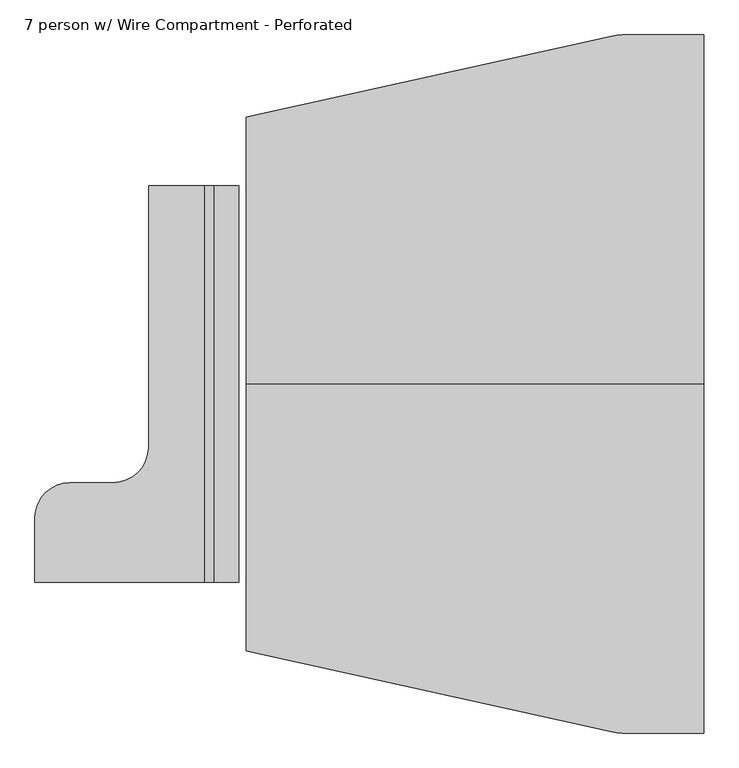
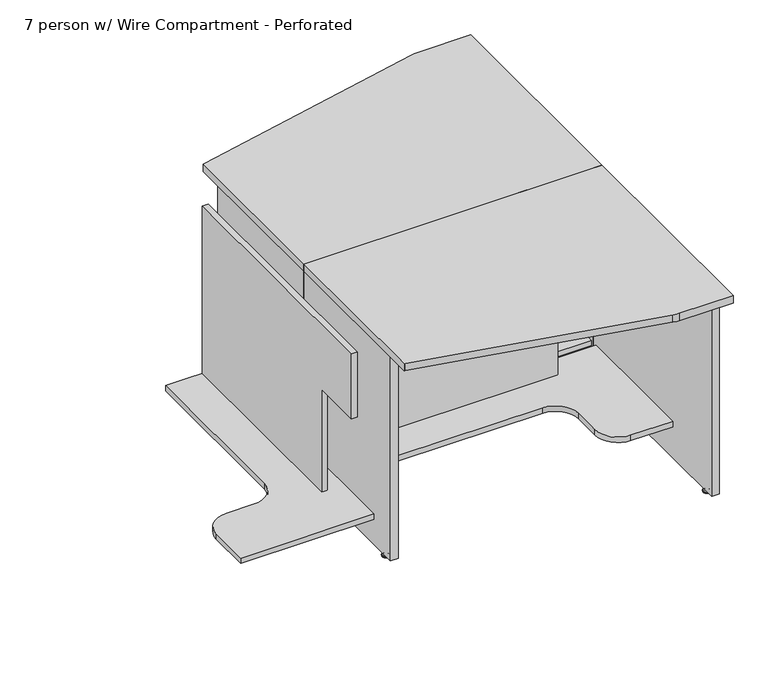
"""IFC4 building model written with IfcOpenShell, lengths in millimetres: furniture geometry, Nova Solutions - Collaboration Table - Boat_6-8 person : 7 person w/ Wire Compartment - Perforated."""

from ifc_helpers import new_model, si_unit, point, frame, frame_2d, origin, place, context, project, spatial, polyline, circle_curve, ellipse_curve, trimmed, segment, composite_curve, outline, extrude, source, transform, mapped, element, save
from ifc_brep_helpers import plane_surface, cylinder_surface, revolved_surface, advanced_brep


def furniture_7_person_w_wire_compartment_perforated_d2921011(model_context):
    return source(origin(), model_context, "Body", "SolidModel", [
        extrude(outline(polyline([(145.5, -1880.6768948), (145.5, -1112.3768948), (507.4, -1112.3768948), (507.4, -941.3768948), (736.3, -941.3768948), (736.3, -1880.6768948), (145.5, -1880.6768948)])), frame((0.0, 69.4, 0.0), z_axis=(0.0, 1.0, 0.0), x_axis=(0.0, 0.0, 1.0)), (0.0, 0.0, 1.0), 19.2),
        extrude(outline(composite_curve([segment(polyline([(-1880.6768948, 14.1), (-1880.6768948, 210.4), (-1233.5768948, 210.4)]), True, "CONTINUOUS"), segment(trimmed(circle_curve(frame_2d((-1233.5768948, 286.6)), 76.2), [point((-1233.5768948, 210.4))], [point((-1157.3768948, 286.6))], True, "CARTESIAN"), True, "CONTINUOUS"), segment(polyline([(-1157.3768948, 286.6), (-1157.3768948, 381.0625)]), True, "CONTINUOUS"), segment(trimmed(circle_curve(frame_2d((-1081.1768948, 381.0625)), 76.2), [point((-1157.3768948, 381.0625))], [point((-1081.1768948, 457.2625))], False, "CARTESIAN"), True, "CONTINUOUS"), segment(polyline([(-1081.1768948, 457.2625), (-941.3768948, 457.2625), (-941.3768948, 14.1), (-1880.6768948, 14.1)]), True, "CONTINUOUS")], self_intersect=False)), frame((0.0, 0.0, 126.3), z_axis=(0.0, 0.0, 1.0), x_axis=(1.0, 0.0, 0.0)), (0.0, 0.0, 1.0), 19.2),
        advanced_brep(
        [(-1900.2045454, 448.9859375, 11.1125), (-1886.8492442, 448.9859375, 11.1125), (-1893.5268948, 448.9859375, 11.1125), (-1900.2045454, 448.9859375, 9.525), (-1886.8492442, 448.9859375, 9.525), (-1905.4124083, 448.9859375, 4.7748687), (-1881.6413813, 448.9859375, 4.7748687), (-1906.2735454, 448.9859375, 3.989419), (-1880.7802442, 448.9859375, 3.989419), (-1906.2735454, 448.9859375, 3.175), (-1880.7802442, 448.9859375, 3.175), (-1905.4228067, 448.9859375, 0.0), (-1881.6309828, 448.9859375, 0.0), (-1893.5268948, 448.9859375, 0.0)],
        [
            (0, 1, circle_curve(frame((-1893.5268948, 448.9859375, 11.1125), z_axis=(0.0, 0.0, 1.0), x_axis=(1.0, 0.0, 0.0)), 6.6776506)),
            (1, 2),
            (2, 0),
            (1, 0, circle_curve(frame((-1893.5268948, 448.9859375, 11.1125), z_axis=(0.0, 0.0, 1.0), x_axis=(1.0, 0.0, 0.0)), 6.6776506)),
            (3, 4, circle_curve(frame((-1893.5268948, 448.9859375, 9.525), z_axis=(0.0, 0.0, 1.0), x_axis=(1.0, 0.0, 0.0)), 6.6776506)),
            (4, 1),
            (0, 3),
            (4, 3, circle_curve(frame((-1893.5268948, 448.9859375, 9.525), z_axis=(0.0, 0.0, 1.0), x_axis=(1.0, 0.0, 0.0)), 6.6776506)),
            (5, 6, circle_curve(frame((-1893.5268948, 448.9859375, 4.7748687), z_axis=(0.0, 0.0, 1.0), x_axis=(1.0, 0.0, 0.0)), 11.8855135)),
            (6, 4, circle_curve(frame((-1880.5948321, 448.9859375, 11.1521822), z_axis=(0.0, 1.0, 0.0), x_axis=(-1.0, 0.0, 0.0)), 6.462615)),
            (3, 5, circle_curve(frame((-1906.4589575, 448.9859375, 11.1521822), z_axis=(0.0, 1.0, 0.0), x_axis=(1.0, 0.0, 0.0)), 6.462615)),
            (6, 5, circle_curve(frame((-1893.5268948, 448.9859375, 4.7748687), z_axis=(0.0, 0.0, 1.0), x_axis=(1.0, 0.0, 0.0)), 11.8855135)),
            (7, 8, circle_curve(frame((-1893.5268948, 448.9859375, 3.989419), z_axis=(0.0, 0.0, 1.0), x_axis=(1.0, 0.0, 0.0)), 12.7466506)),
            (8, 6, circle_curve(frame((-1881.8144316, 448.9859375, 3.7203591), z_axis=(0.0, -1.0, 0.0), x_axis=(-1.0, 0.0, 0.0)), 1.0686145)),
            (5, 7, circle_curve(frame((-1905.239358, 448.9859375, 3.7203591), z_axis=(0.0, -1.0, 0.0), x_axis=(1.0, 0.0, 0.0)), 1.0686145)),
            (8, 7, circle_curve(frame((-1893.5268948, 448.9859375, 3.989419), z_axis=(0.0, 0.0, 1.0), x_axis=(1.0, 0.0, 0.0)), 12.7466506)),
            (9, 10, circle_curve(frame((-1893.5268948, 448.9859375, 3.175), z_axis=(0.0, 0.0, 1.0), x_axis=(1.0, 0.0, 0.0)), 12.7466506)),
            (10, 8),
            (7, 9),
            (10, 9, circle_curve(frame((-1893.5268948, 448.9859375, 3.175), z_axis=(0.0, 0.0, 1.0), x_axis=(1.0, 0.0, 0.0)), 12.7466506)),
            (11, 12, circle_curve(frame((-1893.5268948, 448.9859375, 0.0), z_axis=(0.0, 0.0, 1.0), x_axis=(1.0, 0.0, 0.0)), 11.8959119)),
            (12, 10),
            (9, 11),
            (12, 11, circle_curve(frame((-1893.5268948, 448.9859375, 0.0), z_axis=(0.0, 0.0, 1.0), x_axis=(1.0, 0.0, 0.0)), 11.8959119)),
            (13, 12),
            (11, 13),
        ],
        [
            plane_surface(frame((-1893.5268948, 448.9859375, 11.1125), z_axis=(0.0, 0.0, 1.0), x_axis=(1.0, 0.0, 0.0))),
            cylinder_surface(frame((-1893.5268948, 448.9859375, 43.2095994), z_axis=(0.0, 0.0, -1.0), x_axis=(1.0, 0.0, 0.0)), 6.6776506),
            revolved_surface(trimmed(ellipse_curve(frame((-1880.5948321, 448.9859375, 11.1521822), z_axis=(0.0, -1.0, 0.0), x_axis=(-1.0, 0.0, 0.0)), 6.462615, 6.462615), [point((-1886.8492442, 448.9859375, 9.525))], [point((-1881.6413813, 448.9859375, 4.7748687))], True, "CARTESIAN"), (-1893.5268948, 448.9859375, 43.2095994), (0.0, 0.0, -1.0)),
            revolved_surface(trimmed(ellipse_curve(frame((-1881.8144316, 448.9859375, 3.7203591), z_axis=(0.0, 1.0, 0.0), x_axis=(-1.0, 0.0, 0.0)), 1.0686145, 1.0686145), [point((-1881.6413813, 448.9859375, 4.7748687))], [point((-1880.7802442, 448.9859375, 3.989419))], True, "CARTESIAN"), (-1893.5268948, 448.9859375, 43.2095994), (0.0, 0.0, -1.0)),
            cylinder_surface(frame((-1893.5268948, 448.9859375, 43.2095994), z_axis=(0.0, 0.0, -1.0), x_axis=(1.0, 0.0, 0.0)), 12.7466506),
            revolved_surface(polyline([(-1880.7802442, 448.9859375, 3.175), (-1881.6309828, 448.9859375, 0.0)]), (-1893.5268948, 448.9859375, 43.2095994), (0.0, 0.0, -1.0)),
            plane_surface(frame((-1893.5268948, 448.9859375, 0.0), z_axis=(0.0, 0.0, -1.0), x_axis=(1.0, 0.0, 0.0))),
        ],
        [
            (0, [[1, 2, 3]]),
            (0, [[4, -3, -2]]),
            (1, [[5, 6, -1, 7]]),
            (1, [[8, -7, -4, -6]]),
            (2, [[9, 10, -5, 11]]),
            (2, [[12, -11, -8, -10]]),
            (3, [[13, 14, -9, 15]]),
            (3, [[16, -15, -12, -14]]),
            (4, [[17, 18, -13, 19]]),
            (4, [[20, -19, -16, -18]]),
            (5, [[21, 22, -17, 23]]),
            (5, [[24, -23, -20, -22]]),
            (6, [[25, -21, 26]]),
            (6, [[-26, -24, -25]]),
        ],
    ),
        advanced_brep(
        [(-1900.2045454, 50.4140625, 11.1125), (-1886.8492442, 50.4140625, 11.1125), (-1893.5268948, 50.4140625, 11.1125), (-1900.2045454, 50.4140625, 9.525), (-1886.8492442, 50.4140625, 9.525), (-1905.4124083, 50.4140625, 4.7748687), (-1881.6413813, 50.4140625, 4.7748687), (-1906.2735454, 50.4140625, 3.989419), (-1880.7802442, 50.4140625, 3.989419), (-1906.2735454, 50.4140625, 3.175), (-1880.7802442, 50.4140625, 3.175), (-1905.4228067, 50.4140625, 0.0), (-1881.6309828, 50.4140625, 0.0), (-1893.5268948, 50.4140625, 0.0)],
        [
            (0, 1, circle_curve(frame((-1893.5268948, 50.4140625, 11.1125), z_axis=(0.0, 0.0, 1.0), x_axis=(1.0, 0.0, 0.0)), 6.6776506)),
            (1, 2),
            (2, 0),
            (1, 0, circle_curve(frame((-1893.5268948, 50.4140625, 11.1125), z_axis=(0.0, 0.0, 1.0), x_axis=(1.0, 0.0, 0.0)), 6.6776506)),
            (3, 4, circle_curve(frame((-1893.5268948, 50.4140625, 9.525), z_axis=(0.0, 0.0, 1.0), x_axis=(1.0, 0.0, 0.0)), 6.6776506)),
            (4, 1),
            (0, 3),
            (4, 3, circle_curve(frame((-1893.5268948, 50.4140625, 9.525), z_axis=(0.0, 0.0, 1.0), x_axis=(1.0, 0.0, 0.0)), 6.6776506)),
            (5, 6, circle_curve(frame((-1893.5268948, 50.4140625, 4.7748687), z_axis=(0.0, 0.0, 1.0), x_axis=(1.0, 0.0, 0.0)), 11.8855135)),
            (6, 4, circle_curve(frame((-1880.5948321, 50.4140625, 11.1521822), z_axis=(0.0, 1.0, 0.0), x_axis=(-1.0, 0.0, 0.0)), 6.462615)),
            (3, 5, circle_curve(frame((-1906.4589575, 50.4140625, 11.1521822), z_axis=(0.0, 1.0, 0.0), x_axis=(1.0, 0.0, 0.0)), 6.462615)),
            (6, 5, circle_curve(frame((-1893.5268948, 50.4140625, 4.7748687), z_axis=(0.0, 0.0, 1.0), x_axis=(1.0, 0.0, 0.0)), 11.8855135)),
            (7, 8, circle_curve(frame((-1893.5268948, 50.4140625, 3.989419), z_axis=(0.0, 0.0, 1.0), x_axis=(1.0, 0.0, 0.0)), 12.7466506)),
            (8, 6, circle_curve(frame((-1881.8144316, 50.4140625, 3.7203591), z_axis=(0.0, -1.0, 0.0), x_axis=(-1.0, 0.0, 0.0)), 1.0686145)),
            (5, 7, circle_curve(frame((-1905.239358, 50.4140625, 3.7203591), z_axis=(0.0, -1.0, 0.0), x_axis=(1.0, 0.0, 0.0)), 1.0686145)),
            (8, 7, circle_curve(frame((-1893.5268948, 50.4140625, 3.989419), z_axis=(0.0, 0.0, 1.0), x_axis=(1.0, 0.0, 0.0)), 12.7466506)),
            (9, 10, circle_curve(frame((-1893.5268948, 50.4140625, 3.175), z_axis=(0.0, 0.0, 1.0), x_axis=(1.0, 0.0, 0.0)), 12.7466506)),
            (10, 8),
            (7, 9),
            (10, 9, circle_curve(frame((-1893.5268948, 50.4140625, 3.175), z_axis=(0.0, 0.0, 1.0), x_axis=(1.0, 0.0, 0.0)), 12.7466506)),
            (11, 12, circle_curve(frame((-1893.5268948, 50.4140625, 0.0), z_axis=(0.0, 0.0, 1.0), x_axis=(1.0, 0.0, 0.0)), 11.8959119)),
            (12, 10),
            (9, 11),
            (12, 11, circle_curve(frame((-1893.5268948, 50.4140625, 0.0), z_axis=(0.0, 0.0, 1.0), x_axis=(1.0, 0.0, 0.0)), 11.8959119)),
            (13, 12),
            (11, 13),
        ],
        [
            plane_surface(frame((-1893.5268948, 50.4140625, 11.1125), z_axis=(0.0, 0.0, 1.0), x_axis=(1.0, 0.0, 0.0))),
            cylinder_surface(frame((-1893.5268948, 50.4140625, 43.2095994), z_axis=(0.0, 0.0, -1.0), x_axis=(1.0, 0.0, 0.0)), 6.6776506),
            revolved_surface(trimmed(ellipse_curve(frame((-1880.5948321, 50.4140625, 11.1521822), z_axis=(0.0, -1.0, 0.0), x_axis=(-1.0, 0.0, 0.0)), 6.462615, 6.462615), [point((-1886.8492442, 50.4140625, 9.525))], [point((-1881.6413813, 50.4140625, 4.7748687))], True, "CARTESIAN"), (-1893.5268948, 50.4140625, 43.2095994), (0.0, 0.0, -1.0)),
            revolved_surface(trimmed(ellipse_curve(frame((-1881.8144316, 50.4140625, 3.7203591), z_axis=(0.0, 1.0, 0.0), x_axis=(-1.0, 0.0, 0.0)), 1.0686145, 1.0686145), [point((-1881.6413813, 50.4140625, 4.7748687))], [point((-1880.7802442, 50.4140625, 3.989419))], True, "CARTESIAN"), (-1893.5268948, 50.4140625, 43.2095994), (0.0, 0.0, -1.0)),
            cylinder_surface(frame((-1893.5268948, 50.4140625, 43.2095994), z_axis=(0.0, 0.0, -1.0), x_axis=(1.0, 0.0, 0.0)), 12.7466506),
            revolved_surface(polyline([(-1880.7802442, 50.4140625, 3.175), (-1881.6309828, 50.4140625, 0.0)]), (-1893.5268948, 50.4140625, 43.2095994), (0.0, 0.0, -1.0)),
            plane_surface(frame((-1893.5268948, 50.4140625, 0.0), z_axis=(0.0, 0.0, -1.0), x_axis=(1.0, 0.0, 0.0))),
        ],
        [
            (0, [[1, 2, 3]]),
            (0, [[4, -3, -2]]),
            (1, [[5, 6, -1, 7]]),
            (1, [[8, -7, -4, -6]]),
            (2, [[9, 10, -5, 11]]),
            (2, [[12, -11, -8, -10]]),
            (3, [[13, 14, -9, 15]]),
            (3, [[16, -15, -12, -14]]),
            (4, [[17, 18, -13, 19]]),
            (4, [[20, -19, -16, -18]]),
            (5, [[21, 22, -17, 23]]),
            (5, [[24, -23, -20, -22]]),
            (6, [[25, -21, 26]]),
            (6, [[-26, -24, -25]]),
        ],
    ),
        extrude(outline(polyline([(-1906.3768948, 1.4), (-1906.3768948, 498.0), (-1880.6768948, 498.0), (-1880.6768948, 1.4), (-1906.3768948, 1.4)])), frame((0.0, 0.0, 15.6), z_axis=(0.0, 0.0, 1.0), x_axis=(1.0, 0.0, 0.0)), (0.0, 0.0, 1.0), 720.7),
        advanced_brep(
        [(-921.8492442, 631.3859375, 11.1125), (-928.5268948, 631.3859375, 11.1125), (-935.2045454, 631.3859375, 11.1125), (-921.8492442, 631.3859375, 9.525), (-935.2045454, 631.3859375, 9.525), (-916.6413813, 631.3859375, 4.7748687), (-940.4124083, 631.3859375, 4.7748687), (-915.7802442, 631.3859375, 3.989419), (-941.2735454, 631.3859375, 3.989419), (-915.7802442, 631.3859375, 3.175), (-941.2735454, 631.3859375, 3.175), (-916.6309828, 631.3859375, 0.0), (-940.4228067, 631.3859375, 0.0), (-928.5268948, 631.3859375, 0.0)],
        [
            (0, 1),
            (1, 2),
            (2, 0, circle_curve(frame((-928.5268948, 631.3859375, 11.1125), z_axis=(0.0, 0.0, 1.0), x_axis=(-1.0, 0.0, 0.0)), 6.6776506)),
            (0, 2, circle_curve(frame((-928.5268948, 631.3859375, 11.1125), z_axis=(0.0, 0.0, 1.0), x_axis=(-1.0, 0.0, 0.0)), 6.6776506)),
            (3, 0),
            (2, 4),
            (4, 3, circle_curve(frame((-928.5268948, 631.3859375, 9.525), z_axis=(0.0, 0.0, 1.0), x_axis=(-1.0, 0.0, 0.0)), 6.6776506)),
            (3, 4, circle_curve(frame((-928.5268948, 631.3859375, 9.525), z_axis=(0.0, 0.0, 1.0), x_axis=(-1.0, 0.0, 0.0)), 6.6776506)),
            (5, 3, circle_curve(frame((-915.5948321, 631.3859375, 11.1521822), z_axis=(0.0, 1.0, 0.0), x_axis=(-1.0, 0.0, 0.0)), 6.462615)),
            (4, 6, circle_curve(frame((-941.4589575, 631.3859375, 11.1521822), z_axis=(0.0, 1.0, 0.0), x_axis=(1.0, 0.0, 0.0)), 6.462615)),
            (6, 5, circle_curve(frame((-928.5268948, 631.3859375, 4.7748687), z_axis=(0.0, 0.0, 1.0), x_axis=(-1.0, 0.0, 0.0)), 11.8855135)),
            (5, 6, circle_curve(frame((-928.5268948, 631.3859375, 4.7748687), z_axis=(0.0, 0.0, 1.0), x_axis=(-1.0, 0.0, 0.0)), 11.8855135)),
            (7, 5, circle_curve(frame((-916.8144316, 631.3859375, 3.7203591), z_axis=(0.0, -1.0, 0.0), x_axis=(-1.0, 0.0, 0.0)), 1.0686145)),
            (6, 8, circle_curve(frame((-940.239358, 631.3859375, 3.7203591), z_axis=(0.0, -1.0, 0.0), x_axis=(1.0, 0.0, 0.0)), 1.0686145)),
            (8, 7, circle_curve(frame((-928.5268948, 631.3859375, 3.989419), z_axis=(0.0, 0.0, 1.0), x_axis=(-1.0, 0.0, 0.0)), 12.7466506)),
            (7, 8, circle_curve(frame((-928.5268948, 631.3859375, 3.989419), z_axis=(0.0, 0.0, 1.0), x_axis=(-1.0, 0.0, 0.0)), 12.7466506)),
            (9, 7),
            (8, 10),
            (10, 9, circle_curve(frame((-928.5268948, 631.3859375, 3.175), z_axis=(0.0, 0.0, 1.0), x_axis=(-1.0, 0.0, 0.0)), 12.7466506)),
            (9, 10, circle_curve(frame((-928.5268948, 631.3859375, 3.175), z_axis=(0.0, 0.0, 1.0), x_axis=(-1.0, 0.0, 0.0)), 12.7466506)),
            (11, 9),
            (10, 12),
            (12, 11, circle_curve(frame((-928.5268948, 631.3859375, 0.0), z_axis=(0.0, 0.0, 1.0), x_axis=(-1.0, 0.0, 0.0)), 11.8959119)),
            (11, 12, circle_curve(frame((-928.5268948, 631.3859375, 0.0), z_axis=(0.0, 0.0, 1.0), x_axis=(-1.0, 0.0, 0.0)), 11.8959119)),
            (13, 11),
            (12, 13),
        ],
        [
            plane_surface(frame((-928.5268948, 631.3859375, 11.1125), z_axis=(0.0, 0.0, 1.0), x_axis=(-1.0, 0.0, 0.0))),
            cylinder_surface(frame((-928.5268948, 631.3859375, 43.2095994), z_axis=(0.0, 0.0, -1.0), x_axis=(-1.0, 0.0, 0.0)), 6.6776506),
            revolved_surface(trimmed(ellipse_curve(frame((-941.4589575, 631.3859375, 11.1521822), z_axis=(0.0, 1.0, 0.0), x_axis=(1.0, 0.0, 0.0)), 6.462615, 6.462615), [point((-935.2045454, 631.3859375, 9.525))], [point((-940.4124083, 631.3859375, 4.7748687))], True, "CARTESIAN"), (-928.5268948, 631.3859375, 43.2095994), (0.0, 0.0, -1.0)),
            revolved_surface(trimmed(ellipse_curve(frame((-940.239358, 631.3859375, 3.7203591), z_axis=(0.0, -1.0, 0.0), x_axis=(1.0, 0.0, 0.0)), 1.0686145, 1.0686145), [point((-940.4124083, 631.3859375, 4.7748687))], [point((-941.2735454, 631.3859375, 3.989419))], True, "CARTESIAN"), (-928.5268948, 631.3859375, 43.2095994), (0.0, 0.0, -1.0)),
            cylinder_surface(frame((-928.5268948, 631.3859375, 43.2095994), z_axis=(0.0, 0.0, -1.0), x_axis=(-1.0, 0.0, 0.0)), 12.7466506),
            revolved_surface(polyline([(-941.2735454, 631.3859375, 3.175), (-940.4228067, 631.3859375, 0.0)]), (-928.5268948, 631.3859375, 43.2095994), (0.0, 0.0, -1.0)),
            plane_surface(frame((-928.5268948, 631.3859375, 0.0), z_axis=(0.0, 0.0, -1.0), x_axis=(-1.0, 0.0, 0.0))),
        ],
        [
            (0, [[1, 2, 3]]),
            (0, [[-2, -1, 4]]),
            (1, [[5, -3, 6, 7]]),
            (1, [[-6, -4, -5, 8]]),
            (2, [[9, -7, 10, 11]]),
            (2, [[-10, -8, -9, 12]]),
            (3, [[13, -11, 14, 15]]),
            (3, [[-14, -12, -13, 16]]),
            (4, [[17, -15, 18, 19]]),
            (4, [[-18, -16, -17, 20]]),
            (5, [[21, -19, 22, 23]]),
            (5, [[-22, -20, -21, 24]]),
            (6, [[25, -23, 26]]),
            (6, [[-26, -24, -25]]),
        ],
    ),
        advanced_brep(
        [(-921.8492442, 50.4140625, 11.1125), (-928.5268948, 50.4140625, 11.1125), (-935.2045454, 50.4140625, 11.1125), (-921.8492442, 50.4140625, 9.525), (-935.2045454, 50.4140625, 9.525), (-916.6413813, 50.4140625, 4.7748687), (-940.4124083, 50.4140625, 4.7748687), (-915.7802442, 50.4140625, 3.989419), (-941.2735454, 50.4140625, 3.989419), (-915.7802442, 50.4140625, 3.175), (-941.2735454, 50.4140625, 3.175), (-916.6309828, 50.4140625, 0.0), (-940.4228067, 50.4140625, 0.0), (-928.5268948, 50.4140625, 0.0)],
        [
            (0, 1),
            (1, 2),
            (2, 0, circle_curve(frame((-928.5268948, 50.4140625, 11.1125), z_axis=(0.0, 0.0, 1.0), x_axis=(-1.0, 0.0, 0.0)), 6.6776506)),
            (0, 2, circle_curve(frame((-928.5268948, 50.4140625, 11.1125), z_axis=(0.0, 0.0, 1.0), x_axis=(-1.0, 0.0, 0.0)), 6.6776506)),
            (3, 0),
            (2, 4),
            (4, 3, circle_curve(frame((-928.5268948, 50.4140625, 9.525), z_axis=(0.0, 0.0, 1.0), x_axis=(-1.0, 0.0, 0.0)), 6.6776506)),
            (3, 4, circle_curve(frame((-928.5268948, 50.4140625, 9.525), z_axis=(0.0, 0.0, 1.0), x_axis=(-1.0, 0.0, 0.0)), 6.6776506)),
            (5, 3, circle_curve(frame((-915.5948321, 50.4140625, 11.1521822), z_axis=(0.0, 1.0, 0.0), x_axis=(-1.0, 0.0, 0.0)), 6.462615)),
            (4, 6, circle_curve(frame((-941.4589575, 50.4140625, 11.1521822), z_axis=(0.0, 1.0, 0.0), x_axis=(1.0, 0.0, 0.0)), 6.462615)),
            (6, 5, circle_curve(frame((-928.5268948, 50.4140625, 4.7748687), z_axis=(0.0, 0.0, 1.0), x_axis=(-1.0, 0.0, 0.0)), 11.8855135)),
            (5, 6, circle_curve(frame((-928.5268948, 50.4140625, 4.7748687), z_axis=(0.0, 0.0, 1.0), x_axis=(-1.0, 0.0, 0.0)), 11.8855135)),
            (7, 5, circle_curve(frame((-916.8144316, 50.4140625, 3.7203591), z_axis=(0.0, -1.0, 0.0), x_axis=(-1.0, 0.0, 0.0)), 1.0686145)),
            (6, 8, circle_curve(frame((-940.239358, 50.4140625, 3.7203591), z_axis=(0.0, -1.0, 0.0), x_axis=(1.0, 0.0, 0.0)), 1.0686145)),
            (8, 7, circle_curve(frame((-928.5268948, 50.4140625, 3.989419), z_axis=(0.0, 0.0, 1.0), x_axis=(-1.0, 0.0, 0.0)), 12.7466506)),
            (7, 8, circle_curve(frame((-928.5268948, 50.4140625, 3.989419), z_axis=(0.0, 0.0, 1.0), x_axis=(-1.0, 0.0, 0.0)), 12.7466506)),
            (9, 7),
            (8, 10),
            (10, 9, circle_curve(frame((-928.5268948, 50.4140625, 3.175), z_axis=(0.0, 0.0, 1.0), x_axis=(-1.0, 0.0, 0.0)), 12.7466506)),
            (9, 10, circle_curve(frame((-928.5268948, 50.4140625, 3.175), z_axis=(0.0, 0.0, 1.0), x_axis=(-1.0, 0.0, 0.0)), 12.7466506)),
            (11, 9),
            (10, 12),
            (12, 11, circle_curve(frame((-928.5268948, 50.4140625, 0.0), z_axis=(0.0, 0.0, 1.0), x_axis=(-1.0, 0.0, 0.0)), 11.8959119)),
            (11, 12, circle_curve(frame((-928.5268948, 50.4140625, 0.0), z_axis=(0.0, 0.0, 1.0), x_axis=(-1.0, 0.0, 0.0)), 11.8959119)),
            (13, 11),
            (12, 13),
        ],
        [
            plane_surface(frame((-928.5268948, 50.4140625, 11.1125), z_axis=(0.0, 0.0, 1.0), x_axis=(-1.0, 0.0, 0.0))),
            cylinder_surface(frame((-928.5268948, 50.4140625, 43.2095994), z_axis=(0.0, 0.0, -1.0), x_axis=(-1.0, 0.0, 0.0)), 6.6776506),
            revolved_surface(trimmed(ellipse_curve(frame((-941.4589575, 50.4140625, 11.1521822), z_axis=(0.0, 1.0, 0.0), x_axis=(1.0, 0.0, 0.0)), 6.462615, 6.462615), [point((-935.2045454, 50.4140625, 9.525))], [point((-940.4124083, 50.4140625, 4.7748687))], True, "CARTESIAN"), (-928.5268948, 50.4140625, 43.2095994), (0.0, 0.0, -1.0)),
            revolved_surface(trimmed(ellipse_curve(frame((-940.239358, 50.4140625, 3.7203591), z_axis=(0.0, -1.0, 0.0), x_axis=(1.0, 0.0, 0.0)), 1.0686145, 1.0686145), [point((-940.4124083, 50.4140625, 4.7748687))], [point((-941.2735454, 50.4140625, 3.989419))], True, "CARTESIAN"), (-928.5268948, 50.4140625, 43.2095994), (0.0, 0.0, -1.0)),
            cylinder_surface(frame((-928.5268948, 50.4140625, 43.2095994), z_axis=(0.0, 0.0, -1.0), x_axis=(-1.0, 0.0, 0.0)), 12.7466506),
            revolved_surface(polyline([(-941.2735454, 50.4140625, 3.175), (-940.4228067, 50.4140625, 0.0)]), (-928.5268948, 50.4140625, 43.2095994), (0.0, 0.0, -1.0)),
            plane_surface(frame((-928.5268948, 50.4140625, 0.0), z_axis=(0.0, 0.0, -1.0), x_axis=(-1.0, 0.0, 0.0))),
        ],
        [
            (0, [[1, 2, 3]]),
            (0, [[-2, -1, 4]]),
            (1, [[5, -3, 6, 7]]),
            (1, [[-6, -4, -5, 8]]),
            (2, [[9, -7, 10, 11]]),
            (2, [[-10, -8, -9, 12]]),
            (3, [[13, -11, 14, 15]]),
            (3, [[-14, -12, -13, 16]]),
            (4, [[17, -15, 18, 19]]),
            (4, [[-18, -16, -17, 20]]),
            (5, [[21, -19, 22, 23]]),
            (5, [[-22, -20, -21, 24]]),
            (6, [[25, -23, 26]]),
            (6, [[-26, -24, -25]]),
        ],
    ),
        extrude(outline(polyline([(-915.6768948, 1.4), (-941.3768948, 1.4), (-941.3768948, 680.4), (-915.6768948, 680.4), (-915.6768948, 1.4)])), frame((0.0, 0.0, 15.6), z_axis=(0.0, 0.0, 1.0), x_axis=(1.0, 0.0, 0.0)), (0.0, 0.0, 1.0), 720.7),
        extrude(outline(composite_curve([segment(polyline([(-1091.4972388, 758.0), (-914.2768948, 758.0), (-914.2768948, 0.0), (-1907.7768948, 0.0), (-1907.7768948, 579.4403794)]), True, "CONTINUOUS"), segment(trimmed(circle_curve(frame_2d((-1882.3878948, 481.0637628)), 101.6), [point((-1907.7768948, 579.4403794))], [point((-1904.3781596, 580.2554372))], False, "CARTESIAN"), True, "CONTINUOUS"), segment(polyline([(-1904.3781596, 580.2554372), (-1113.4875036, 755.5916743)]), True, "CONTINUOUS"), segment(trimmed(circle_curve(frame_2d((-1091.4972388, 656.4)), 101.6), [point((-1113.4875036, 755.5916743))], [point((-1091.4972388, 758.0))], False, "CARTESIAN"), True, "CONTINUOUS")], self_intersect=False)), frame((0.0, 0.0, 736.3), z_axis=(0.0, 0.0, 1.0), x_axis=(1.0, 0.0, 0.0)), (0.0, 0.0, 1.0), 25.7),
        extrude(outline(polyline([(736.3, -1880.6768948), (145.5, -1880.6768948), (145.5, -1112.3768948), (507.4, -1112.3768948), (507.4, -941.3768948), (736.3, -941.3768948), (736.3, -1880.6768948)])), frame((0.0, -88.6, 0.0), z_axis=(0.0, 1.0, 0.0), x_axis=(0.0, 0.0, 1.0)), (0.0, 0.0, 1.0), 19.2),
        extrude(outline(composite_curve([segment(polyline([(-1880.6768948, -14.1), (-941.3768948, -14.1), (-941.3768948, -457.2625), (-1081.1768948, -457.2625)]), True, "CONTINUOUS"), segment(trimmed(circle_curve(frame_2d((-1081.1768948, -381.0625)), 76.2), [point((-1081.1768948, -457.2625))], [point((-1157.3768948, -381.0625))], False, "CARTESIAN"), True, "CONTINUOUS"), segment(polyline([(-1157.3768948, -381.0625), (-1157.3768948, -286.6)]), True, "CONTINUOUS"), segment(trimmed(circle_curve(frame_2d((-1233.5768948, -286.6)), 76.2), [point((-1157.3768948, -286.6))], [point((-1233.5768948, -210.4))], True, "CARTESIAN"), True, "CONTINUOUS"), segment(polyline([(-1233.5768948, -210.4), (-1880.6768948, -210.4), (-1880.6768948, -14.1)]), True, "CONTINUOUS")], self_intersect=False)), frame((0.0, 0.0, 126.3), z_axis=(0.0, 0.0, 1.0), x_axis=(1.0, 0.0, 0.0)), (0.0, 0.0, 1.0), 19.2),
        advanced_brep(
        [(-1900.2045454, -448.9859375, 11.1125), (-1893.5268948, -448.9859375, 11.1125), (-1886.8492442, -448.9859375, 11.1125), (-1900.2045454, -448.9859375, 9.525), (-1886.8492442, -448.9859375, 9.525), (-1905.4124083, -448.9859375, 4.7748687), (-1881.6413813, -448.9859375, 4.7748687), (-1906.2735454, -448.9859375, 3.989419), (-1880.7802442, -448.9859375, 3.989419), (-1906.2735454, -448.9859375, 3.175), (-1880.7802442, -448.9859375, 3.175), (-1905.4228067, -448.9859375, 0.0), (-1881.6309828, -448.9859375, 0.0), (-1893.5268948, -448.9859375, 0.0)],
        [
            (0, 1),
            (1, 2),
            (2, 0, circle_curve(frame((-1893.5268948, -448.9859375, 11.1125), z_axis=(0.0, 0.0, 1.0), x_axis=(1.0, 0.0, 0.0)), 6.6776506)),
            (0, 2, circle_curve(frame((-1893.5268948, -448.9859375, 11.1125), z_axis=(0.0, 0.0, 1.0), x_axis=(1.0, 0.0, 0.0)), 6.6776506)),
            (3, 0),
            (2, 4),
            (4, 3, circle_curve(frame((-1893.5268948, -448.9859375, 9.525), z_axis=(0.0, 0.0, 1.0), x_axis=(1.0, 0.0, 0.0)), 6.6776506)),
            (3, 4, circle_curve(frame((-1893.5268948, -448.9859375, 9.525), z_axis=(0.0, 0.0, 1.0), x_axis=(1.0, 0.0, 0.0)), 6.6776506)),
            (5, 3, circle_curve(frame((-1906.4589575, -448.9859375, 11.1521822), z_axis=(0.0, -1.0, 0.0), x_axis=(1.0, 0.0, 0.0)), 6.462615)),
            (4, 6, circle_curve(frame((-1880.5948321, -448.9859375, 11.1521822), z_axis=(0.0, -1.0, 0.0), x_axis=(-1.0, 0.0, 0.0)), 6.462615)),
            (6, 5, circle_curve(frame((-1893.5268948, -448.9859375, 4.7748687), z_axis=(0.0, 0.0, 1.0), x_axis=(1.0, 0.0, 0.0)), 11.8855135)),
            (5, 6, circle_curve(frame((-1893.5268948, -448.9859375, 4.7748687), z_axis=(0.0, 0.0, 1.0), x_axis=(1.0, 0.0, 0.0)), 11.8855135)),
            (7, 5, circle_curve(frame((-1905.239358, -448.9859375, 3.7203591), z_axis=(0.0, 1.0, 0.0), x_axis=(1.0, 0.0, 0.0)), 1.0686145)),
            (6, 8, circle_curve(frame((-1881.8144316, -448.9859375, 3.7203591), z_axis=(0.0, 1.0, 0.0), x_axis=(-1.0, 0.0, 0.0)), 1.0686145)),
            (8, 7, circle_curve(frame((-1893.5268948, -448.9859375, 3.989419), z_axis=(0.0, 0.0, 1.0), x_axis=(1.0, 0.0, 0.0)), 12.7466506)),
            (7, 8, circle_curve(frame((-1893.5268948, -448.9859375, 3.989419), z_axis=(0.0, 0.0, 1.0), x_axis=(1.0, 0.0, 0.0)), 12.7466506)),
            (9, 7),
            (8, 10),
            (10, 9, circle_curve(frame((-1893.5268948, -448.9859375, 3.175), z_axis=(0.0, 0.0, 1.0), x_axis=(1.0, 0.0, 0.0)), 12.7466506)),
            (9, 10, circle_curve(frame((-1893.5268948, -448.9859375, 3.175), z_axis=(0.0, 0.0, 1.0), x_axis=(1.0, 0.0, 0.0)), 12.7466506)),
            (11, 9),
            (10, 12),
            (12, 11, circle_curve(frame((-1893.5268948, -448.9859375, 0.0), z_axis=(0.0, 0.0, 1.0), x_axis=(1.0, 0.0, 0.0)), 11.8959119)),
            (11, 12, circle_curve(frame((-1893.5268948, -448.9859375, 0.0), z_axis=(0.0, 0.0, 1.0), x_axis=(1.0, 0.0, 0.0)), 11.8959119)),
            (13, 11),
            (12, 13),
        ],
        [
            plane_surface(frame((-1893.5268948, -448.9859375, 11.1125), z_axis=(0.0, 0.0, 1.0), x_axis=(1.0, 0.0, 0.0))),
            cylinder_surface(frame((-1893.5268948, -448.9859375, 43.2095994), z_axis=(0.0, 0.0, -1.0), x_axis=(1.0, 0.0, 0.0)), 6.6776506),
            revolved_surface(trimmed(ellipse_curve(frame((-1880.5948321, -448.9859375, 11.1521822), z_axis=(0.0, -1.0, 0.0), x_axis=(-1.0, 0.0, 0.0)), 6.462615, 6.462615), [point((-1886.8492442, -448.9859375, 9.525))], [point((-1881.6413813, -448.9859375, 4.7748687))], True, "CARTESIAN"), (-1893.5268948, -448.9859375, 43.2095994), (0.0, 0.0, -1.0)),
            revolved_surface(trimmed(ellipse_curve(frame((-1881.8144316, -448.9859375, 3.7203591), z_axis=(0.0, 1.0, 0.0), x_axis=(-1.0, 0.0, 0.0)), 1.0686145, 1.0686145), [point((-1881.6413813, -448.9859375, 4.7748687))], [point((-1880.7802442, -448.9859375, 3.989419))], True, "CARTESIAN"), (-1893.5268948, -448.9859375, 43.2095994), (0.0, 0.0, -1.0)),
            cylinder_surface(frame((-1893.5268948, -448.9859375, 43.2095994), z_axis=(0.0, 0.0, -1.0), x_axis=(1.0, 0.0, 0.0)), 12.7466506),
            revolved_surface(polyline([(-1880.7802442, -448.9859375, 3.175), (-1881.6309828, -448.9859375, 0.0)]), (-1893.5268948, -448.9859375, 43.2095994), (0.0, 0.0, -1.0)),
            plane_surface(frame((-1893.5268948, -448.9859375, 0.0), z_axis=(0.0, 0.0, -1.0), x_axis=(1.0, 0.0, 0.0))),
        ],
        [
            (0, [[1, 2, 3]]),
            (0, [[-2, -1, 4]]),
            (1, [[5, -3, 6, 7]]),
            (1, [[-6, -4, -5, 8]]),
            (2, [[9, -7, 10, 11]]),
            (2, [[-10, -8, -9, 12]]),
            (3, [[13, -11, 14, 15]]),
            (3, [[-14, -12, -13, 16]]),
            (4, [[17, -15, 18, 19]]),
            (4, [[-18, -16, -17, 20]]),
            (5, [[21, -19, 22, 23]]),
            (5, [[-22, -20, -21, 24]]),
            (6, [[25, -23, 26]]),
            (6, [[-26, -24, -25]]),
        ],
    ),
        advanced_brep(
        [(-1900.2045454, -50.4140625, 11.1125), (-1893.5268948, -50.4140625, 11.1125), (-1886.8492442, -50.4140625, 11.1125), (-1900.2045454, -50.4140625, 9.525), (-1886.8492442, -50.4140625, 9.525), (-1905.4124083, -50.4140625, 4.7748687), (-1881.6413813, -50.4140625, 4.7748687), (-1906.2735454, -50.4140625, 3.989419), (-1880.7802442, -50.4140625, 3.989419), (-1906.2735454, -50.4140625, 3.175), (-1880.7802442, -50.4140625, 3.175), (-1905.4228067, -50.4140625, 0.0), (-1881.6309828, -50.4140625, 0.0), (-1893.5268948, -50.4140625, 0.0)],
        [
            (0, 1),
            (1, 2),
            (2, 0, circle_curve(frame((-1893.5268948, -50.4140625, 11.1125), z_axis=(0.0, 0.0, 1.0), x_axis=(1.0, 0.0, 0.0)), 6.6776506)),
            (0, 2, circle_curve(frame((-1893.5268948, -50.4140625, 11.1125), z_axis=(0.0, 0.0, 1.0), x_axis=(1.0, 0.0, 0.0)), 6.6776506)),
            (3, 0),
            (2, 4),
            (4, 3, circle_curve(frame((-1893.5268948, -50.4140625, 9.525), z_axis=(0.0, 0.0, 1.0), x_axis=(1.0, 0.0, 0.0)), 6.6776506)),
            (3, 4, circle_curve(frame((-1893.5268948, -50.4140625, 9.525), z_axis=(0.0, 0.0, 1.0), x_axis=(1.0, 0.0, 0.0)), 6.6776506)),
            (5, 3, circle_curve(frame((-1906.4589575, -50.4140625, 11.1521822), z_axis=(0.0, -1.0, 0.0), x_axis=(1.0, 0.0, 0.0)), 6.462615)),
            (4, 6, circle_curve(frame((-1880.5948321, -50.4140625, 11.1521822), z_axis=(0.0, -1.0, 0.0), x_axis=(-1.0, 0.0, 0.0)), 6.462615)),
            (6, 5, circle_curve(frame((-1893.5268948, -50.4140625, 4.7748687), z_axis=(0.0, 0.0, 1.0), x_axis=(1.0, 0.0, 0.0)), 11.8855135)),
            (5, 6, circle_curve(frame((-1893.5268948, -50.4140625, 4.7748687), z_axis=(0.0, 0.0, 1.0), x_axis=(1.0, 0.0, 0.0)), 11.8855135)),
            (7, 5, circle_curve(frame((-1905.239358, -50.4140625, 3.7203591), z_axis=(0.0, 1.0, 0.0), x_axis=(1.0, 0.0, 0.0)), 1.0686145)),
            (6, 8, circle_curve(frame((-1881.8144316, -50.4140625, 3.7203591), z_axis=(0.0, 1.0, 0.0), x_axis=(-1.0, 0.0, 0.0)), 1.0686145)),
            (8, 7, circle_curve(frame((-1893.5268948, -50.4140625, 3.989419), z_axis=(0.0, 0.0, 1.0), x_axis=(1.0, 0.0, 0.0)), 12.7466506)),
            (7, 8, circle_curve(frame((-1893.5268948, -50.4140625, 3.989419), z_axis=(0.0, 0.0, 1.0), x_axis=(1.0, 0.0, 0.0)), 12.7466506)),
            (9, 7),
            (8, 10),
            (10, 9, circle_curve(frame((-1893.5268948, -50.4140625, 3.175), z_axis=(0.0, 0.0, 1.0), x_axis=(1.0, 0.0, 0.0)), 12.7466506)),
            (9, 10, circle_curve(frame((-1893.5268948, -50.4140625, 3.175), z_axis=(0.0, 0.0, 1.0), x_axis=(1.0, 0.0, 0.0)), 12.7466506)),
            (11, 9),
            (10, 12),
            (12, 11, circle_curve(frame((-1893.5268948, -50.4140625, 0.0), z_axis=(0.0, 0.0, 1.0), x_axis=(1.0, 0.0, 0.0)), 11.8959119)),
            (11, 12, circle_curve(frame((-1893.5268948, -50.4140625, 0.0), z_axis=(0.0, 0.0, 1.0), x_axis=(1.0, 0.0, 0.0)), 11.8959119)),
            (13, 11),
            (12, 13),
        ],
        [
            plane_surface(frame((-1893.5268948, -50.4140625, 11.1125), z_axis=(0.0, 0.0, 1.0), x_axis=(1.0, 0.0, 0.0))),
            cylinder_surface(frame((-1893.5268948, -50.4140625, 43.2095994), z_axis=(0.0, 0.0, -1.0), x_axis=(1.0, 0.0, 0.0)), 6.6776506),
            revolved_surface(trimmed(ellipse_curve(frame((-1880.5948321, -50.4140625, 11.1521822), z_axis=(0.0, -1.0, 0.0), x_axis=(-1.0, 0.0, 0.0)), 6.462615, 6.462615), [point((-1886.8492442, -50.4140625, 9.525))], [point((-1881.6413813, -50.4140625, 4.7748687))], True, "CARTESIAN"), (-1893.5268948, -50.4140625, 43.2095994), (0.0, 0.0, -1.0)),
            revolved_surface(trimmed(ellipse_curve(frame((-1881.8144316, -50.4140625, 3.7203591), z_axis=(0.0, 1.0, 0.0), x_axis=(-1.0, 0.0, 0.0)), 1.0686145, 1.0686145), [point((-1881.6413813, -50.4140625, 4.7748687))], [point((-1880.7802442, -50.4140625, 3.989419))], True, "CARTESIAN"), (-1893.5268948, -50.4140625, 43.2095994), (0.0, 0.0, -1.0)),
            cylinder_surface(frame((-1893.5268948, -50.4140625, 43.2095994), z_axis=(0.0, 0.0, -1.0), x_axis=(1.0, 0.0, 0.0)), 12.7466506),
            revolved_surface(polyline([(-1880.7802442, -50.4140625, 3.175), (-1881.6309828, -50.4140625, 0.0)]), (-1893.5268948, -50.4140625, 43.2095994), (0.0, 0.0, -1.0)),
            plane_surface(frame((-1893.5268948, -50.4140625, 0.0), z_axis=(0.0, 0.0, -1.0), x_axis=(1.0, 0.0, 0.0))),
        ],
        [
            (0, [[1, 2, 3]]),
            (0, [[-2, -1, 4]]),
            (1, [[5, -3, 6, 7]]),
            (1, [[-6, -4, -5, 8]]),
            (2, [[9, -7, 10, 11]]),
            (2, [[-10, -8, -9, 12]]),
            (3, [[13, -11, 14, 15]]),
            (3, [[-14, -12, -13, 16]]),
            (4, [[17, -15, 18, 19]]),
            (4, [[-18, -16, -17, 20]]),
            (5, [[21, -19, 22, 23]]),
            (5, [[-22, -20, -21, 24]]),
            (6, [[25, -23, 26]]),
            (6, [[-26, -24, -25]]),
        ],
    ),
        extrude(outline(polyline([(-1906.3768948, -1.4), (-1880.6768948, -1.4), (-1880.6768948, -498.0), (-1906.3768948, -498.0), (-1906.3768948, -1.4)])), frame((0.0, 0.0, 15.6), z_axis=(0.0, 0.0, 1.0), x_axis=(1.0, 0.0, 0.0)), (0.0, 0.0, 1.0), 720.7),
        advanced_brep(
        [(-921.8492442, -631.3859375, 11.1125), (-935.2045454, -631.3859375, 11.1125), (-928.5268948, -631.3859375, 11.1125), (-921.8492442, -631.3859375, 9.525), (-935.2045454, -631.3859375, 9.525), (-916.6413813, -631.3859375, 4.7748687), (-940.4124083, -631.3859375, 4.7748687), (-915.7802442, -631.3859375, 3.989419), (-941.2735454, -631.3859375, 3.989419), (-915.7802442, -631.3859375, 3.175), (-941.2735454, -631.3859375, 3.175), (-916.6309828, -631.3859375, 0.0), (-940.4228067, -631.3859375, 0.0), (-928.5268948, -631.3859375, 0.0)],
        [
            (0, 1, circle_curve(frame((-928.5268948, -631.3859375, 11.1125), z_axis=(0.0, 0.0, 1.0), x_axis=(-1.0, 0.0, 0.0)), 6.6776506)),
            (1, 2),
            (2, 0),
            (1, 0, circle_curve(frame((-928.5268948, -631.3859375, 11.1125), z_axis=(0.0, 0.0, 1.0), x_axis=(-1.0, 0.0, 0.0)), 6.6776506)),
            (3, 4, circle_curve(frame((-928.5268948, -631.3859375, 9.525), z_axis=(0.0, 0.0, 1.0), x_axis=(-1.0, 0.0, 0.0)), 6.6776506)),
            (4, 1),
            (0, 3),
            (4, 3, circle_curve(frame((-928.5268948, -631.3859375, 9.525), z_axis=(0.0, 0.0, 1.0), x_axis=(-1.0, 0.0, 0.0)), 6.6776506)),
            (5, 6, circle_curve(frame((-928.5268948, -631.3859375, 4.7748687), z_axis=(0.0, 0.0, 1.0), x_axis=(-1.0, 0.0, 0.0)), 11.8855135)),
            (6, 4, circle_curve(frame((-941.4589575, -631.3859375, 11.1521822), z_axis=(0.0, -1.0, 0.0), x_axis=(1.0, 0.0, 0.0)), 6.462615)),
            (3, 5, circle_curve(frame((-915.5948321, -631.3859375, 11.1521822), z_axis=(0.0, -1.0, 0.0), x_axis=(-1.0, 0.0, 0.0)), 6.462615)),
            (6, 5, circle_curve(frame((-928.5268948, -631.3859375, 4.7748687), z_axis=(0.0, 0.0, 1.0), x_axis=(-1.0, 0.0, 0.0)), 11.8855135)),
            (7, 8, circle_curve(frame((-928.5268948, -631.3859375, 3.989419), z_axis=(0.0, 0.0, 1.0), x_axis=(-1.0, 0.0, 0.0)), 12.7466506)),
            (8, 6, circle_curve(frame((-940.239358, -631.3859375, 3.7203591), z_axis=(0.0, 1.0, 0.0), x_axis=(1.0, 0.0, 0.0)), 1.0686145)),
            (5, 7, circle_curve(frame((-916.8144316, -631.3859375, 3.7203591), z_axis=(0.0, 1.0, 0.0), x_axis=(-1.0, 0.0, 0.0)), 1.0686145)),
            (8, 7, circle_curve(frame((-928.5268948, -631.3859375, 3.989419), z_axis=(0.0, 0.0, 1.0), x_axis=(-1.0, 0.0, 0.0)), 12.7466506)),
            (9, 10, circle_curve(frame((-928.5268948, -631.3859375, 3.175), z_axis=(0.0, 0.0, 1.0), x_axis=(-1.0, 0.0, 0.0)), 12.7466506)),
            (10, 8),
            (7, 9),
            (10, 9, circle_curve(frame((-928.5268948, -631.3859375, 3.175), z_axis=(0.0, 0.0, 1.0), x_axis=(-1.0, 0.0, 0.0)), 12.7466506)),
            (11, 12, circle_curve(frame((-928.5268948, -631.3859375, 0.0), z_axis=(0.0, 0.0, 1.0), x_axis=(-1.0, 0.0, 0.0)), 11.8959119)),
            (12, 10),
            (9, 11),
            (12, 11, circle_curve(frame((-928.5268948, -631.3859375, 0.0), z_axis=(0.0, 0.0, 1.0), x_axis=(-1.0, 0.0, 0.0)), 11.8959119)),
            (13, 12),
            (11, 13),
        ],
        [
            plane_surface(frame((-928.5268948, -631.3859375, 11.1125), z_axis=(0.0, 0.0, 1.0), x_axis=(-1.0, 0.0, 0.0))),
            cylinder_surface(frame((-928.5268948, -631.3859375, 43.2095994), z_axis=(0.0, 0.0, -1.0), x_axis=(-1.0, 0.0, 0.0)), 6.6776506),
            revolved_surface(trimmed(ellipse_curve(frame((-941.4589575, -631.3859375, 11.1521822), z_axis=(0.0, 1.0, 0.0), x_axis=(1.0, 0.0, 0.0)), 6.462615, 6.462615), [point((-935.2045454, -631.3859375, 9.525))], [point((-940.4124083, -631.3859375, 4.7748687))], True, "CARTESIAN"), (-928.5268948, -631.3859375, 43.2095994), (0.0, 0.0, -1.0)),
            revolved_surface(trimmed(ellipse_curve(frame((-940.239358, -631.3859375, 3.7203591), z_axis=(0.0, -1.0, 0.0), x_axis=(1.0, 0.0, 0.0)), 1.0686145, 1.0686145), [point((-940.4124083, -631.3859375, 4.7748687))], [point((-941.2735454, -631.3859375, 3.989419))], True, "CARTESIAN"), (-928.5268948, -631.3859375, 43.2095994), (0.0, 0.0, -1.0)),
            cylinder_surface(frame((-928.5268948, -631.3859375, 43.2095994), z_axis=(0.0, 0.0, -1.0), x_axis=(-1.0, 0.0, 0.0)), 12.7466506),
            revolved_surface(polyline([(-941.2735454, -631.3859375, 3.175), (-940.4228067, -631.3859375, 0.0)]), (-928.5268948, -631.3859375, 43.2095994), (0.0, 0.0, -1.0)),
            plane_surface(frame((-928.5268948, -631.3859375, 0.0), z_axis=(0.0, 0.0, -1.0), x_axis=(-1.0, 0.0, 0.0))),
        ],
        [
            (0, [[1, 2, 3]]),
            (0, [[4, -3, -2]]),
            (1, [[5, 6, -1, 7]]),
            (1, [[8, -7, -4, -6]]),
            (2, [[9, 10, -5, 11]]),
            (2, [[12, -11, -8, -10]]),
            (3, [[13, 14, -9, 15]]),
            (3, [[16, -15, -12, -14]]),
            (4, [[17, 18, -13, 19]]),
            (4, [[20, -19, -16, -18]]),
            (5, [[21, 22, -17, 23]]),
            (5, [[24, -23, -20, -22]]),
            (6, [[25, -21, 26]]),
            (6, [[-26, -24, -25]]),
        ],
    ),
        advanced_brep(
        [(-921.8492442, -50.4140625, 11.1125), (-935.2045454, -50.4140625, 11.1125), (-928.5268948, -50.4140625, 11.1125), (-921.8492442, -50.4140625, 9.525), (-935.2045454, -50.4140625, 9.525), (-916.6413813, -50.4140625, 4.7748687), (-940.4124083, -50.4140625, 4.7748687), (-915.7802442, -50.4140625, 3.989419), (-941.2735454, -50.4140625, 3.989419), (-915.7802442, -50.4140625, 3.175), (-941.2735454, -50.4140625, 3.175), (-916.6309828, -50.4140625, 0.0), (-940.4228067, -50.4140625, 0.0), (-928.5268948, -50.4140625, 0.0)],
        [
            (0, 1, circle_curve(frame((-928.5268948, -50.4140625, 11.1125), z_axis=(0.0, 0.0, 1.0), x_axis=(-1.0, 0.0, 0.0)), 6.6776506)),
            (1, 2),
            (2, 0),
            (1, 0, circle_curve(frame((-928.5268948, -50.4140625, 11.1125), z_axis=(0.0, 0.0, 1.0), x_axis=(-1.0, 0.0, 0.0)), 6.6776506)),
            (3, 4, circle_curve(frame((-928.5268948, -50.4140625, 9.525), z_axis=(0.0, 0.0, 1.0), x_axis=(-1.0, 0.0, 0.0)), 6.6776506)),
            (4, 1),
            (0, 3),
            (4, 3, circle_curve(frame((-928.5268948, -50.4140625, 9.525), z_axis=(0.0, 0.0, 1.0), x_axis=(-1.0, 0.0, 0.0)), 6.6776506)),
            (5, 6, circle_curve(frame((-928.5268948, -50.4140625, 4.7748687), z_axis=(0.0, 0.0, 1.0), x_axis=(-1.0, 0.0, 0.0)), 11.8855135)),
            (6, 4, circle_curve(frame((-941.4589575, -50.4140625, 11.1521822), z_axis=(0.0, -1.0, 0.0), x_axis=(1.0, 0.0, 0.0)), 6.462615)),
            (3, 5, circle_curve(frame((-915.5948321, -50.4140625, 11.1521822), z_axis=(0.0, -1.0, 0.0), x_axis=(-1.0, 0.0, 0.0)), 6.462615)),
            (6, 5, circle_curve(frame((-928.5268948, -50.4140625, 4.7748687), z_axis=(0.0, 0.0, 1.0), x_axis=(-1.0, 0.0, 0.0)), 11.8855135)),
            (7, 8, circle_curve(frame((-928.5268948, -50.4140625, 3.989419), z_axis=(0.0, 0.0, 1.0), x_axis=(-1.0, 0.0, 0.0)), 12.7466506)),
            (8, 6, circle_curve(frame((-940.239358, -50.4140625, 3.7203591), z_axis=(0.0, 1.0, 0.0), x_axis=(1.0, 0.0, 0.0)), 1.0686145)),
            (5, 7, circle_curve(frame((-916.8144316, -50.4140625, 3.7203591), z_axis=(0.0, 1.0, 0.0), x_axis=(-1.0, 0.0, 0.0)), 1.0686145)),
            (8, 7, circle_curve(frame((-928.5268948, -50.4140625, 3.989419), z_axis=(0.0, 0.0, 1.0), x_axis=(-1.0, 0.0, 0.0)), 12.7466506)),
            (9, 10, circle_curve(frame((-928.5268948, -50.4140625, 3.175), z_axis=(0.0, 0.0, 1.0), x_axis=(-1.0, 0.0, 0.0)), 12.7466506)),
            (10, 8),
            (7, 9),
            (10, 9, circle_curve(frame((-928.5268948, -50.4140625, 3.175), z_axis=(0.0, 0.0, 1.0), x_axis=(-1.0, 0.0, 0.0)), 12.7466506)),
            (11, 12, circle_curve(frame((-928.5268948, -50.4140625, 0.0), z_axis=(0.0, 0.0, 1.0), x_axis=(-1.0, 0.0, 0.0)), 11.8959119)),
            (12, 10),
            (9, 11),
            (12, 11, circle_curve(frame((-928.5268948, -50.4140625, 0.0), z_axis=(0.0, 0.0, 1.0), x_axis=(-1.0, 0.0, 0.0)), 11.8959119)),
            (13, 12),
            (11, 13),
        ],
        [
            plane_surface(frame((-928.5268948, -50.4140625, 11.1125), z_axis=(0.0, 0.0, 1.0), x_axis=(-1.0, 0.0, 0.0))),
            cylinder_surface(frame((-928.5268948, -50.4140625, 43.2095994), z_axis=(0.0, 0.0, -1.0), x_axis=(-1.0, 0.0, 0.0)), 6.6776506),
            revolved_surface(trimmed(ellipse_curve(frame((-941.4589575, -50.4140625, 11.1521822), z_axis=(0.0, 1.0, 0.0), x_axis=(1.0, 0.0, 0.0)), 6.462615, 6.462615), [point((-935.2045454, -50.4140625, 9.525))], [point((-940.4124083, -50.4140625, 4.7748687))], True, "CARTESIAN"), (-928.5268948, -50.4140625, 43.2095994), (0.0, 0.0, -1.0)),
            revolved_surface(trimmed(ellipse_curve(frame((-940.239358, -50.4140625, 3.7203591), z_axis=(0.0, -1.0, 0.0), x_axis=(1.0, 0.0, 0.0)), 1.0686145, 1.0686145), [point((-940.4124083, -50.4140625, 4.7748687))], [point((-941.2735454, -50.4140625, 3.989419))], True, "CARTESIAN"), (-928.5268948, -50.4140625, 43.2095994), (0.0, 0.0, -1.0)),
            cylinder_surface(frame((-928.5268948, -50.4140625, 43.2095994), z_axis=(0.0, 0.0, -1.0), x_axis=(-1.0, 0.0, 0.0)), 12.7466506),
            revolved_surface(polyline([(-941.2735454, -50.4140625, 3.175), (-940.4228067, -50.4140625, 0.0)]), (-928.5268948, -50.4140625, 43.2095994), (0.0, 0.0, -1.0)),
            plane_surface(frame((-928.5268948, -50.4140625, 0.0), z_axis=(0.0, 0.0, -1.0), x_axis=(-1.0, 0.0, 0.0))),
        ],
        [
            (0, [[1, 2, 3]]),
            (0, [[4, -3, -2]]),
            (1, [[5, 6, -1, 7]]),
            (1, [[8, -7, -4, -6]]),
            (2, [[9, 10, -5, 11]]),
            (2, [[12, -11, -8, -10]]),
            (3, [[13, 14, -9, 15]]),
            (3, [[16, -15, -12, -14]]),
            (4, [[17, 18, -13, 19]]),
            (4, [[20, -19, -16, -18]]),
            (5, [[21, 22, -17, 23]]),
            (5, [[24, -23, -20, -22]]),
            (6, [[25, -21, 26]]),
            (6, [[-26, -24, -25]]),
        ],
    ),
        extrude(outline(polyline([(-915.6768948, -1.4), (-915.6768948, -680.4), (-941.3768948, -680.4), (-941.3768948, -1.4), (-915.6768948, -1.4)])), frame((0.0, 0.0, 15.6), z_axis=(0.0, 0.0, 1.0), x_axis=(1.0, 0.0, 0.0)), (0.0, 0.0, 1.0), 720.7),
        extrude(outline(composite_curve([segment(trimmed(circle_curve(frame_2d((-1091.4972388, -656.4)), 101.6), [point((-1091.4972388, -758.0))], [point((-1113.4875036, -755.5916743))], False, "CARTESIAN"), True, "CONTINUOUS"), segment(polyline([(-1113.4875036, -755.5916743), (-1904.3781596, -580.2554372)]), True, "CONTINUOUS"), segment(trimmed(circle_curve(frame_2d((-1882.3878948, -481.0637628)), 101.6), [point((-1904.3781596, -580.2554372))], [point((-1907.7768948, -579.4403794))], False, "CARTESIAN"), True, "CONTINUOUS"), segment(polyline([(-1907.7768948, -579.4403794), (-1907.7768948, 0.0), (-914.2768948, 0.0), (-914.2768948, -758.0), (-1091.4972388, -758.0)]), True, "CONTINUOUS")], self_intersect=False)), frame((0.0, 0.0, 736.3), z_axis=(0.0, 0.0, 1.0), x_axis=(1.0, 0.0, 0.0)), (0.0, 0.0, 1.0), 25.7),
        extrude(outline(polyline([(430.1, 736.3), (430.1, 145.5), (-259.1, 145.5), (-259.1, 507.4), (-430.1, 507.4), (-430.1, 736.3), (430.1, 736.3)])), frame((-1997.8768948, 0.0, 0.0), z_axis=(1.0, 0.0, 0.0), x_axis=(0.0, 1.0, 0.0)), (0.0, 0.0, 1.0), 19.2),
        extrude(outline(composite_curve([segment(polyline([(-1923.3768948, 430.1), (-1923.3768948, -430.1), (-2366.5393948, -430.1), (-2366.5393948, -290.3)]), True, "CONTINUOUS"), segment(trimmed(circle_curve(frame_2d((-2290.3393948, -290.3)), 76.2), [point((-2366.5393948, -290.3))], [point((-2290.3393948, -214.1))], False, "CARTESIAN"), True, "CONTINUOUS"), segment(polyline([(-2290.3393948, -214.1), (-2195.8768948, -214.1)]), True, "CONTINUOUS"), segment(trimmed(circle_curve(frame_2d((-2195.8768948, -137.9)), 76.2), [point((-2195.8768948, -214.1))], [point((-2119.6768948, -137.9))], True, "CARTESIAN"), True, "CONTINUOUS"), segment(polyline([(-2119.6768948, -137.9), (-2119.6768948, 430.1), (-1923.3768948, 430.1)]), True, "CONTINUOUS")], self_intersect=False)), frame((0.0, 0.0, 126.3), z_axis=(0.0, 0.0, 1.0), x_axis=(1.0, 0.0, 0.0)), (0.0, 0.0, 1.0), 19.2),
    ])


if __name__ == "__main__":
    model = new_model("IFC4")
    model_context = context("Model", 3, world=origin())
    ifc_project = project(units=[si_unit("LENGTHUNIT", "METRE", prefix="MILLI")], contexts=[model_context])
    site = spatial("IfcSite", under=ifc_project)
    building = spatial("IfcBuilding", under=site)
    placement = place(None, origin())
    furniture_7_person_w_wire_compartment_perforated_shape = furniture_7_person_w_wire_compartment_perforated_d2921011(model_context)
    element("IfcFurniture", 1, ObjectType="Nova Solutions - Collaboration Table - Boat_6-8 person : 7 person w/ Wire Compartment - Perforated", at=placement, inside=building, context=model_context, shape_type="MappedRepresentation", body=[
        mapped(furniture_7_person_w_wire_compartment_perforated_shape, transform((0.0, 0.0, 0.0), x_axis=(1.0, 0.0, 0.0), y_axis=(0.0, 1.0, 0.0), z_axis=(0.0, 0.0, 1.0))),
    ])
    save(model, "model.ifc")
